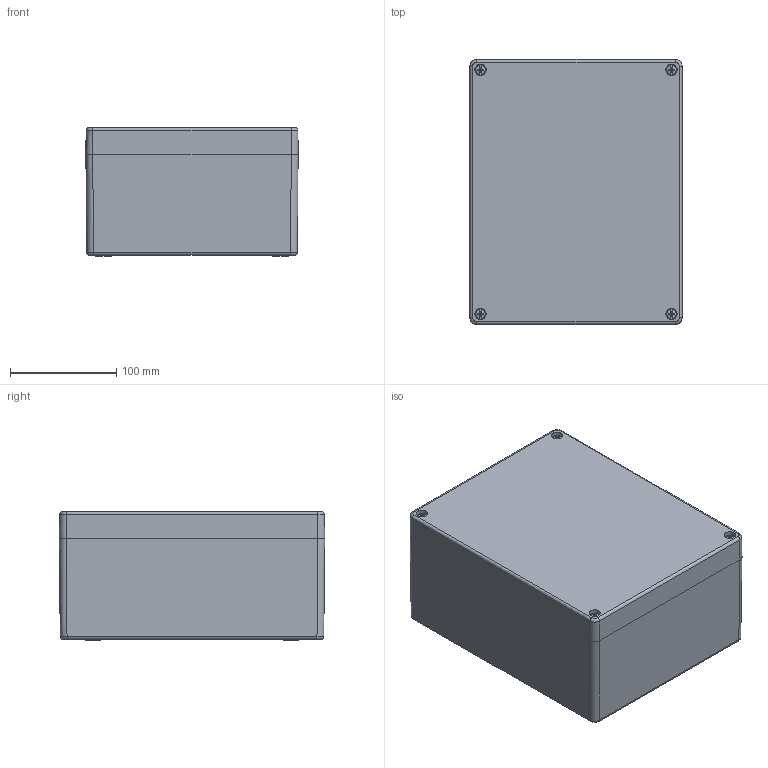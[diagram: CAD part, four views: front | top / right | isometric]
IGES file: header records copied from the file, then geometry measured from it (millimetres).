
Global section: file name: 1590ZGRP233.iam; native system: Autodesk Inventor 2016; preprocessor: unknown; author: kbond; date: 20160202.082035; units: millimetre
Bounding box: 200 x 250 x 121.1 mm (x, y, z)
Volume: 1422560.5 mm3; surface area: 517843.3 mm2
Topology: 8 solids, 8 shells, 495 faces, 1296 edges, 858 vertices
Faces by surface type: plane 253, revolution 166, cylinder 32, cone 28, bspline 8, sphere 8
Full cylindrical faces by diameter (mm): 4.6 x8, 5.28 x4, 5.88 x4
